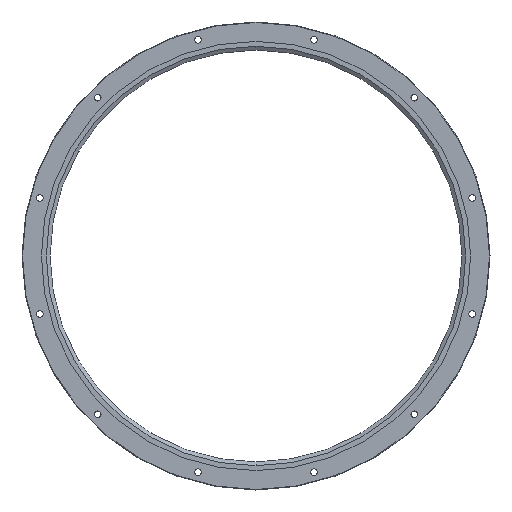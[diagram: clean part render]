
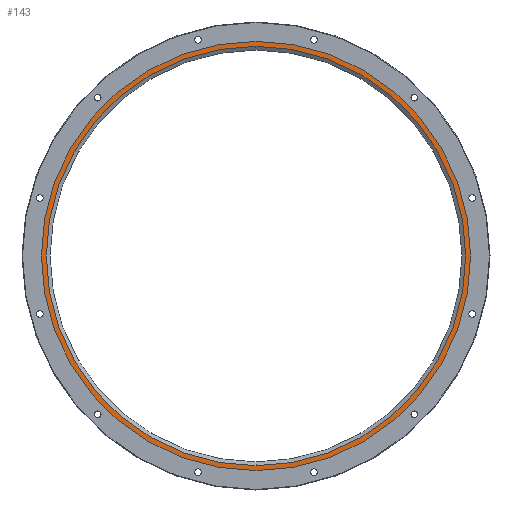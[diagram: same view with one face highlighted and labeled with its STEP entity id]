
A CAD part, front view. The second image highlights one B-rep face of the part: STEP entity #143.
In plain terms, the highlighted planar face has unit normal (0, -1, 0).
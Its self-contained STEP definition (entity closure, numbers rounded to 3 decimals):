
#143=ADVANCED_FACE('',(#308,#309),#310,.T.);
#308=FACE_OUTER_BOUND('',#512,.T.);
#309=FACE_BOUND('',#513,.T.);
#310=PLANE('',#514);
#512=EDGE_LOOP('',(#1066,#1067));
#513=EDGE_LOOP('',(#1068,#1069));
#514=AXIS2_PLACEMENT_3D('',#1070,#1071,#1072);
#1066=ORIENTED_EDGE('',*,*,#1199,.F.);
#1067=ORIENTED_EDGE('',*,*,#1373,.F.);
#1068=ORIENTED_EDGE('',*,*,#1371,.T.);
#1069=ORIENTED_EDGE('',*,*,#1203,.T.);
#1070=CARTESIAN_POINT('',(-221.85,-2.825,0.0));
#1071=DIRECTION('',(0.0,-1.0,0.0));
#1072=DIRECTION('',(0.0,0.0,-1.0));
#1199=EDGE_CURVE('',#1394,#1397,#1398,.T.);
#1203=EDGE_CURVE('',#1404,#1402,#1405,.T.);
#1371=EDGE_CURVE('',#1402,#1404,#1681,.T.);
#1373=EDGE_CURVE('',#1397,#1394,#1683,.T.);
#1394=VERTEX_POINT('',#1706);
#1397=VERTEX_POINT('',#1710);
#1398=CIRCLE('',#1711,221.85);
#1402=VERTEX_POINT('',#1716);
#1404=VERTEX_POINT('',#1719);
#1405=CIRCLE('',#1720,216.179);
#1681=CIRCLE('',#2053,216.179);
#1683=CIRCLE('',#2055,221.85);
#1706=CARTESIAN_POINT('',(0.0,-2.825,221.85));
#1710=CARTESIAN_POINT('',(0.,-2.825,-221.85));
#1711=AXIS2_PLACEMENT_3D('',#2085,#2086,#2087);
#1716=CARTESIAN_POINT('',(0.0,-2.825,-216.179));
#1719=CARTESIAN_POINT('',(0.,-2.825,216.179));
#1720=AXIS2_PLACEMENT_3D('',#2093,#2094,#2095);
#2053=AXIS2_PLACEMENT_3D('',#2483,#2484,#2485);
#2055=AXIS2_PLACEMENT_3D('',#2489,#2490,#2491);
#2085=CARTESIAN_POINT('',(0.0,-2.825,0.0));
#2086=DIRECTION('',(-0.0,1.0,0.0));
#2087=DIRECTION('',(0.0,0.0,1.0));
#2093=CARTESIAN_POINT('',(0.0,-2.825,0.0));
#2094=DIRECTION('',(-0.0,1.0,0.0));
#2095=DIRECTION('',(0.0,0.0,1.0));
#2483=CARTESIAN_POINT('',(0.0,-2.825,0.0));
#2484=DIRECTION('',(-0.0,1.0,0.0));
#2485=DIRECTION('',(0.0,0.0,1.0));
#2489=CARTESIAN_POINT('',(0.0,-2.825,0.0));
#2490=DIRECTION('',(-0.0,1.0,0.0));
#2491=DIRECTION('',(0.0,0.0,1.0));
